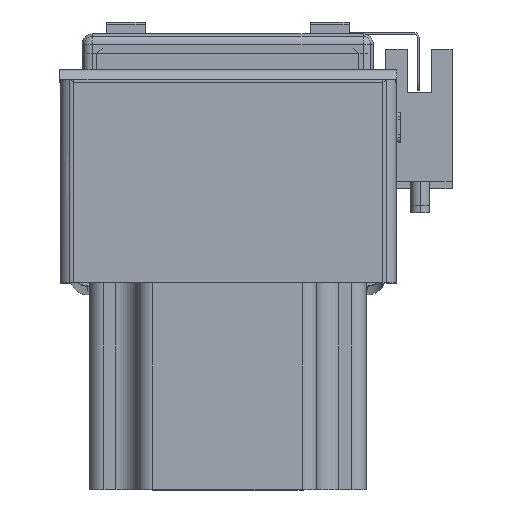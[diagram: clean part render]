
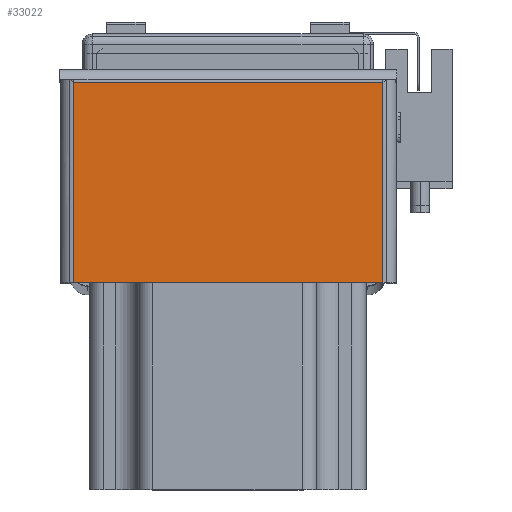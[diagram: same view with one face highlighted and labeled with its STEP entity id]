
A CAD part, top view. The second image highlights one B-rep face of the part: STEP entity #33022.
In plain terms, the highlighted planar face has unit normal (0, 0, 1) as drawn and (1, 0, 0) by its records, which use the part's own axes.
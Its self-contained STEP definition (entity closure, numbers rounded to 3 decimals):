
#651 = AXIS2_PLACEMENT_3D ( 'NONE', #15102, #15083, #15091 ) ;
#6047 = CARTESIAN_POINT ( 'NONE',  ( 2., 0., -31.863 ) ) ;
#6049 = CARTESIAN_POINT ( 'NONE',  ( 2., 41.263, -31.863 ) ) ;
#6056 = CARTESIAN_POINT ( 'NONE',  ( 2., 41.263, 31.863 ) ) ;
#6132 = CARTESIAN_POINT ( 'NONE',  ( 2., 0., 31.863 ) ) ;
#7172 = DIRECTION ( 'NONE',  ( 0., 0., -1. ) ) ;
#7178 = DIRECTION ( 'NONE',  ( 0., -1., 0. ) ) ;
#7180 = CARTESIAN_POINT ( 'NONE',  ( 2., 42., 31.863 ) ) ;
#7205 = CARTESIAN_POINT ( 'NONE',  ( 2., 0., -32.6 ) ) ;
#7251 = DIRECTION ( 'NONE',  ( 0., 0., 1. ) ) ;
#7265 = CARTESIAN_POINT ( 'NONE',  ( 2., 42., -31.863 ) ) ;
#7282 = DIRECTION ( 'NONE',  ( 0., -1., 0. ) ) ;
#7285 = CARTESIAN_POINT ( 'NONE',  ( 2., 41.263, -31.863 ) ) ;
#15083 = DIRECTION ( 'NONE',  ( -1., 0., 0. ) ) ;
#15091 = DIRECTION ( 'NONE',  ( 0., 0., 1. ) ) ;
#15102 = CARTESIAN_POINT ( 'NONE',  ( 2., 42., -32.6 ) ) ;
#15109 = PLANE ( 'NONE',  #651 ) ;
#16813 = LINE ( 'NONE', #7205, #16830 ) ;
#16830 = VECTOR ( 'NONE', #7172, 1000. ) ;
#16849 = LINE ( 'NONE', #7285, #16892 ) ;
#16851 = VECTOR ( 'NONE', #7282, 1000. ) ;
#16881 = LINE ( 'NONE', #7265, #16851 ) ;
#16892 = VECTOR ( 'NONE', #7251, 1000. ) ;
#16894 = LINE ( 'NONE', #7180, #16909 ) ;
#16909 = VECTOR ( 'NONE', #7178, 1000. ) ;
#17928 = ORIENTED_EDGE ( 'NONE', *, *, #24773, .T. ) ;
#17962 = ORIENTED_EDGE ( 'NONE', *, *, #24748, .T. ) ;
#17971 = ORIENTED_EDGE ( 'NONE', *, *, #24777, .F. ) ;
#18031 = ORIENTED_EDGE ( 'NONE', *, *, #24743, .T. ) ;
#24743 = EDGE_CURVE ( 'NONE', #34659, #34624, #16813, .T. ) ;
#24748 = EDGE_CURVE ( 'NONE', #34603, #34659, #16894, .T. ) ;
#24773 = EDGE_CURVE ( 'NONE', #34588, #34603, #16849, .T. ) ;
#24777 = EDGE_CURVE ( 'NONE', #34588, #34624, #16881, .T. ) ;
#28652 = FACE_OUTER_BOUND ( 'NONE', #32278, .T. ) ;
#32278 = EDGE_LOOP ( 'NONE', ( #17928, #17962, #18031, #17971 ) ) ;
#33022 = ADVANCED_FACE ( 'NONE', ( #28652 ), #15109, .F. ) ;
#34588 = VERTEX_POINT ( 'NONE', #6049 ) ;
#34603 = VERTEX_POINT ( 'NONE', #6056 ) ;
#34624 = VERTEX_POINT ( 'NONE', #6047 ) ;
#34659 = VERTEX_POINT ( 'NONE', #6132 ) ;
